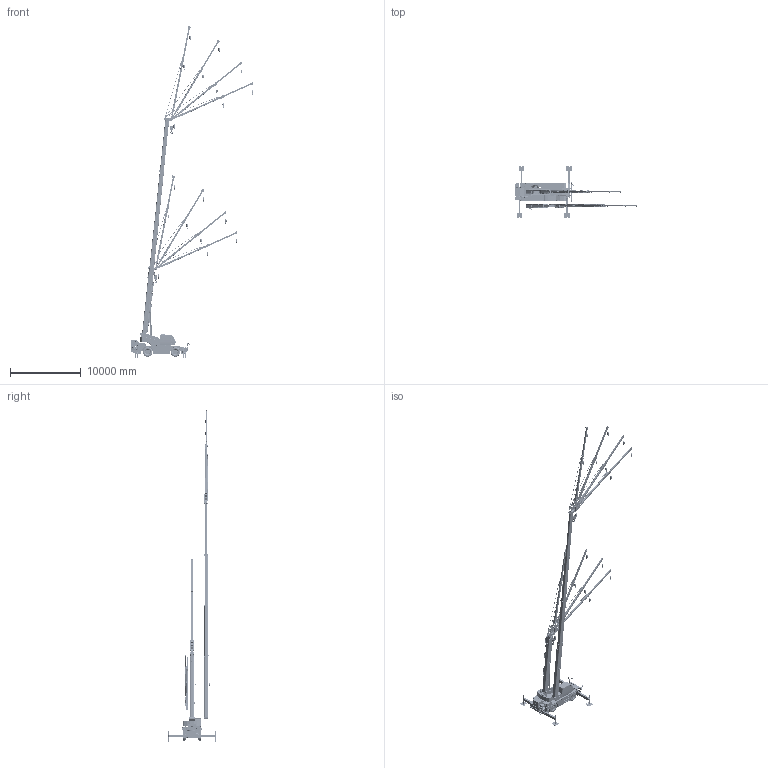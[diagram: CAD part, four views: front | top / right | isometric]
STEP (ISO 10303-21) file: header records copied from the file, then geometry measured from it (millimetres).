
FILE_DESCRIPTION(('CATIA V5 STEP Exchange'),'2;1');
FILE_NAME('\\Iba001\cad\CR\HP用CADデータ\37A\STP\SR-250HV 3D.stp','2026-07-06T07:39:50+00:00',('none'),('none'),'CATIA Version 5-6 Release 2017 SP5 HF78','CATIA V5 STEP AP203','none');
FILE_SCHEMA(('CONFIG_CONTROL_DESIGN'));
Products named in the file (22): SR-250HV 3D; SR-250HV UPPER; SR-250HV UPPER STRUCTURE; SR-250HV BOOM JIB Min; SR-250HV BOOM Min; SR-250HV JIB; SR-250HV JIB 8.7m 5deg; SR-250HV JIB 8.7m 25deg; SR-250HV JIB 8.7m 45deg; SR-250HV JIB 8.7m 60deg; SR-250HV JIB 13.1m 5deg; SR-250HV JIB 13.1m 25deg; SR-250HV JIB 13.1m 45deg; SR-250HV JIB 13.1m 60deg; SR-250HV JIB Stowed; SR-250HV BOOM JIB Max; SR-250HV BOOM Max; SR-250HV CARRIER; SR-250HV BEAM F-L; SR-250HV BEAM F-R; SR-250HV BEAM R-L; SR-250HV BEAM R-R
Assembly tree (99 placements, depth 6):
  SR-250HV 3D
    SR-250HV UPPER
      SR-250HV UPPER STRUCTURE
        #73
        #20333
        #41477
        #41940
      SR-250HV BOOM JIB Min
        SR-250HV BOOM Min
          #42500
          #50122
          #51934
          #53632
        SR-250HV JIB
          SR-250HV JIB 8.7m 5deg
            #61795
            #64999
            #66549
            #69068
          SR-250HV JIB 8.7m 25deg
            #61795
            #64999
            #66549
            #69068
          SR-250HV JIB 8.7m 45deg
            #61795
            #64999
            #66549
            #69068
          SR-250HV JIB 8.7m 60deg
            #61795
            #64999
            #66549
            #69068
          SR-250HV JIB 13.1m 5deg
            #61795
            #64999
            #66549
            #69068
          SR-250HV JIB 13.1m 25deg
            #61795
            #64999
            #66549
            #69068
          SR-250HV JIB 13.1m 45deg
            #61795
            #64999
            #66549
            #69068
          SR-250HV JIB 13.1m 60deg
            #61795
            #64999
            #66549
            #69068
        SR-250HV JIB Stowed
          #61795
          #64999
          #66549
          #79427
        #84575  x9
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Bounding box: 17238.33 x 7400 x 46772.35 mm (x, y, z)
Volume: 53517478438.2 mm3; surface area: 712240947.6 mm2
Topology: 222 solids, 232 shells, 18106 faces, 48903 edges, 31511 vertices
Faces by surface type: plane 11146, cylinder 4592, torus 909, bspline 662, extrusion 566, cone 163, sphere 48, revolution 20
Entity records: 231566 total; most frequent: CARTESIAN_POINT 97783, ORIENTED_EDGE 31340, DIRECTION 20218, EDGE_CURVE 15670, VERTEX_POINT 10028, VECTOR 9399, LINE 8994, AXIS2_PLACEMENT_3D 7090
